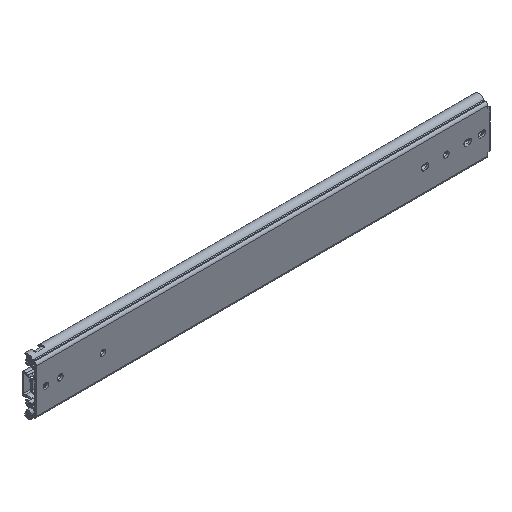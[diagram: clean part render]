
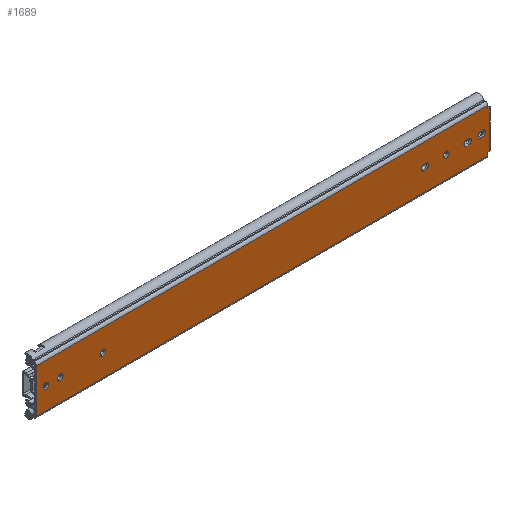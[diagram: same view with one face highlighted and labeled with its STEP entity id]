
A CAD part, isometric view. The second image highlights one B-rep face of the part: STEP entity #1689.
In plain terms, the highlighted planar face has unit normal (0, -1, 0).
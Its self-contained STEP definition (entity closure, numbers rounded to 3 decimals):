
#19=DIRECTION('',(0.,0.,-1.));
#20=VECTOR('',#19,58.586);
#21=CARTESIAN_POINT('',(0.,0.,29.293));
#22=LINE('',#21,#20);
#250=CARTESIAN_POINT('',(12.7,0.,0.));
#251=DIRECTION('',(0.,1.,0.));
#252=DIRECTION('',(1.,0.,0.));
#253=AXIS2_PLACEMENT_3D('',#250,#251,#252);
#255=CARTESIAN_POINT('',(12.7,0.,0.));
#256=DIRECTION('',(0.,1.,0.));
#257=DIRECTION('',(-1.,0.,0.));
#258=AXIS2_PLACEMENT_3D('',#255,#256,#257);
#260=CARTESIAN_POINT('',(88.9,0.,0.));
#261=DIRECTION('',(0.,1.,0.));
#262=DIRECTION('',(1.,0.,0.));
#263=AXIS2_PLACEMENT_3D('',#260,#261,#262);
#265=CARTESIAN_POINT('',(88.9,0.,0.));
#266=DIRECTION('',(0.,1.,0.));
#267=DIRECTION('',(-1.,0.,0.));
#268=AXIS2_PLACEMENT_3D('',#265,#266,#267);
#270=CARTESIAN_POINT('',(549.3,0.,0.));
#271=DIRECTION('',(0.,1.,0.));
#272=DIRECTION('',(1.,0.,0.));
#273=AXIS2_PLACEMENT_3D('',#270,#271,#272);
#275=CARTESIAN_POINT('',(549.3,0.,0.));
#276=DIRECTION('',(0.,1.,0.));
#277=DIRECTION('',(-1.,0.,0.));
#278=AXIS2_PLACEMENT_3D('',#275,#276,#277);
#280=CARTESIAN_POINT('',(519.45,0.,0.));
#281=DIRECTION('',(0.,1.,0.));
#282=DIRECTION('',(0.,0.,-1.));
#283=AXIS2_PLACEMENT_3D('',#280,#281,#282);
#285=DIRECTION('',(-1.,0.,0.));
#286=VECTOR('',#285,2.5);
#287=CARTESIAN_POINT('',(521.95,0.,-3.75));
#288=LINE('',#287,#286);
#289=CARTESIAN_POINT('',(521.95,0.,0.));
#290=DIRECTION('',(0.,1.,0.));
#291=DIRECTION('',(0.,0.,1.));
#292=AXIS2_PLACEMENT_3D('',#289,#290,#291);
#294=DIRECTION('',(1.,0.,0.));
#295=VECTOR('',#294,2.5);
#296=CARTESIAN_POINT('',(519.45,0.,3.75));
#297=LINE('',#296,#295);
#298=CARTESIAN_POINT('',(576.65,0.,0.));
#299=DIRECTION('',(0.,1.,0.));
#300=DIRECTION('',(0.,0.,-1.));
#301=AXIS2_PLACEMENT_3D('',#298,#299,#300);
#303=DIRECTION('',(-1.,0.,0.));
#304=VECTOR('',#303,2.5);
#305=CARTESIAN_POINT('',(579.15,0.,-3.75));
#306=LINE('',#305,#304);
#307=CARTESIAN_POINT('',(579.15,0.,0.));
#308=DIRECTION('',(0.,1.,0.));
#309=DIRECTION('',(0.,0.,1.));
#310=AXIS2_PLACEMENT_3D('',#307,#308,#309);
#312=DIRECTION('',(1.,0.,0.));
#313=VECTOR('',#312,2.5);
#314=CARTESIAN_POINT('',(576.65,0.,3.75));
#315=LINE('',#314,#313);
#316=CARTESIAN_POINT('',(595.65,0.,0.));
#317=DIRECTION('',(0.,1.,0.));
#318=DIRECTION('',(0.,0.,-1.));
#319=AXIS2_PLACEMENT_3D('',#316,#317,#318);
#321=DIRECTION('',(-1.,0.,0.));
#322=VECTOR('',#321,2.5);
#323=CARTESIAN_POINT('',(598.15,0.,-3.75));
#324=LINE('',#323,#322);
#325=CARTESIAN_POINT('',(598.15,0.,0.));
#326=DIRECTION('',(0.,1.,0.));
#327=DIRECTION('',(0.,0.,1.));
#328=AXIS2_PLACEMENT_3D('',#325,#326,#327);
#330=DIRECTION('',(1.,0.,0.));
#331=VECTOR('',#330,2.5);
#332=CARTESIAN_POINT('',(595.65,0.,3.75));
#333=LINE('',#332,#331);
#334=CARTESIAN_POINT('',(31.8,0.,0.));
#335=DIRECTION('',(0.,1.,0.));
#336=DIRECTION('',(1.,0.,0.));
#337=AXIS2_PLACEMENT_3D('',#334,#335,#336);
#339=CARTESIAN_POINT('',(31.8,0.,0.));
#340=DIRECTION('',(0.,1.,0.));
#341=DIRECTION('',(-1.,0.,0.));
#342=AXIS2_PLACEMENT_3D('',#339,#340,#341);
#344=DIRECTION('',(-1.,0.,0.));
#345=VECTOR('',#344,2.);
#346=CARTESIAN_POINT('',(606.6,0.,-25.5));
#347=LINE('',#346,#345);
#348=DIRECTION('',(-1.,0.,0.));
#349=VECTOR('',#348,604.6);
#350=CARTESIAN_POINT('',(604.6,0.,-29.293));
#351=LINE('',#350,#349);
#352=DIRECTION('',(-1.,0.,0.));
#353=VECTOR('',#352,604.6);
#354=CARTESIAN_POINT('',(604.6,0.,29.293));
#355=LINE('',#354,#353);
#356=DIRECTION('',(-1.,0.,0.));
#357=VECTOR('',#356,2.);
#358=CARTESIAN_POINT('',(606.6,0.,25.5));
#359=LINE('',#358,#357);
#448=DIRECTION('',(0.,0.,1.));
#449=VECTOR('',#448,51.);
#450=CARTESIAN_POINT('',(606.6,0.,-25.5));
#451=LINE('',#450,#449);
#558=DIRECTION('',(0.,0.,-1.));
#559=VECTOR('',#558,3.793);
#560=CARTESIAN_POINT('',(604.6,0.,29.293));
#561=LINE('',#560,#559);
#594=DIRECTION('',(0.,0.,-1.));
#595=VECTOR('',#594,3.793);
#596=CARTESIAN_POINT('',(604.6,0.,-25.5));
#597=LINE('',#596,#595);
#1104=CARTESIAN_POINT('',(0.,0.,29.293));
#1106=VERTEX_POINT('',#1104);
#1109=CARTESIAN_POINT('',(0.,0.,-29.293));
#1111=VERTEX_POINT('',#1109);
#1200=CARTESIAN_POINT('',(16.45,0.,0.));
#1201=CARTESIAN_POINT('',(8.95,0.,0.));
#1202=VERTEX_POINT('',#1200);
#1203=VERTEX_POINT('',#1201);
#1204=CARTESIAN_POINT('',(92.65,0.,0.));
#1205=CARTESIAN_POINT('',(85.15,0.,0.));
#1206=VERTEX_POINT('',#1204);
#1207=VERTEX_POINT('',#1205);
#1208=CARTESIAN_POINT('',(553.05,0.,0.));
#1209=CARTESIAN_POINT('',(545.55,0.,0.));
#1210=VERTEX_POINT('',#1208);
#1211=VERTEX_POINT('',#1209);
#1212=CARTESIAN_POINT('',(519.45,0.,-3.75));
#1213=CARTESIAN_POINT('',(519.45,0.,3.75));
#1214=VERTEX_POINT('',#1212);
#1215=VERTEX_POINT('',#1213);
#1216=CARTESIAN_POINT('',(521.95,0.,3.75));
#1217=VERTEX_POINT('',#1216);
#1218=CARTESIAN_POINT('',(521.95,0.,-3.75));
#1219=VERTEX_POINT('',#1218);
#1220=CARTESIAN_POINT('',(576.65,0.,-3.75));
#1221=CARTESIAN_POINT('',(576.65,0.,3.75));
#1222=VERTEX_POINT('',#1220);
#1223=VERTEX_POINT('',#1221);
#1224=CARTESIAN_POINT('',(579.15,0.,3.75));
#1225=VERTEX_POINT('',#1224);
#1226=CARTESIAN_POINT('',(579.15,0.,-3.75));
#1227=VERTEX_POINT('',#1226);
#1228=CARTESIAN_POINT('',(595.65,0.,-3.75));
#1229=CARTESIAN_POINT('',(595.65,0.,3.75));
#1230=VERTEX_POINT('',#1228);
#1231=VERTEX_POINT('',#1229);
#1232=CARTESIAN_POINT('',(598.15,0.,3.75));
#1233=VERTEX_POINT('',#1232);
#1234=CARTESIAN_POINT('',(598.15,0.,-3.75));
#1235=VERTEX_POINT('',#1234);
#1298=CARTESIAN_POINT('',(604.6,0.,29.293));
#1299=VERTEX_POINT('',#1298);
#1300=CARTESIAN_POINT('',(604.6,0.,-29.293));
#1301=VERTEX_POINT('',#1300);
#1304=CARTESIAN_POINT('',(606.6,0.,25.5));
#1305=CARTESIAN_POINT('',(604.6,0.,25.5));
#1306=VERTEX_POINT('',#1304);
#1307=VERTEX_POINT('',#1305);
#1308=CARTESIAN_POINT('',(606.6,0.,-25.5));
#1309=CARTESIAN_POINT('',(604.6,0.,-25.5));
#1310=VERTEX_POINT('',#1308);
#1311=VERTEX_POINT('',#1309);
#1376=CARTESIAN_POINT('',(35.55,0.,0.));
#1377=CARTESIAN_POINT('',(28.05,0.,0.));
#1378=VERTEX_POINT('',#1376);
#1379=VERTEX_POINT('',#1377);
#1614=CARTESIAN_POINT('',(0.,0.,32.5));
#1615=DIRECTION('',(0.,-1.,0.));
#1616=DIRECTION('',(0.,0.,-1.));
#1617=AXIS2_PLACEMENT_3D('',#1614,#1615,#1616);
#1618=PLANE('',#1617);
#1620=ORIENTED_EDGE('',*,*,#1619,.F.);
#1622=ORIENTED_EDGE('',*,*,#1621,.T.);
#1624=ORIENTED_EDGE('',*,*,#1623,.T.);
#1626=ORIENTED_EDGE('',*,*,#1625,.T.);
#1627=ORIENTED_EDGE('',*,*,#1399,.F.);
#1629=ORIENTED_EDGE('',*,*,#1628,.F.);
#1631=ORIENTED_EDGE('',*,*,#1630,.T.);
#1633=ORIENTED_EDGE('',*,*,#1632,.F.);
#1634=EDGE_LOOP('',(#1620,#1622,#1624,#1626,#1627,#1629,#1631,#1633));
#1635=FACE_OUTER_BOUND('',#1634,.F.);
#1637=ORIENTED_EDGE('',*,*,#1636,.F.);
#1639=ORIENTED_EDGE('',*,*,#1638,.F.);
#1640=EDGE_LOOP('',(#1637,#1639));
#1641=FACE_BOUND('',#1640,.F.);
#1643=ORIENTED_EDGE('',*,*,#1642,.F.);
#1645=ORIENTED_EDGE('',*,*,#1644,.F.);
#1646=EDGE_LOOP('',(#1643,#1645));
#1647=FACE_BOUND('',#1646,.F.);
#1649=ORIENTED_EDGE('',*,*,#1648,.F.);
#1651=ORIENTED_EDGE('',*,*,#1650,.F.);
#1653=ORIENTED_EDGE('',*,*,#1652,.F.);
#1655=ORIENTED_EDGE('',*,*,#1654,.F.);
#1656=EDGE_LOOP('',(#1649,#1651,#1653,#1655));
#1657=FACE_BOUND('',#1656,.F.);
#1659=ORIENTED_EDGE('',*,*,#1658,.F.);
#1661=ORIENTED_EDGE('',*,*,#1660,.F.);
#1663=ORIENTED_EDGE('',*,*,#1662,.F.);
#1665=ORIENTED_EDGE('',*,*,#1664,.F.);
#1666=EDGE_LOOP('',(#1659,#1661,#1663,#1665));
#1667=FACE_BOUND('',#1666,.F.);
#1669=ORIENTED_EDGE('',*,*,#1668,.F.);
#1671=ORIENTED_EDGE('',*,*,#1670,.F.);
#1673=ORIENTED_EDGE('',*,*,#1672,.F.);
#1675=ORIENTED_EDGE('',*,*,#1674,.F.);
#1676=EDGE_LOOP('',(#1669,#1671,#1673,#1675));
#1677=FACE_BOUND('',#1676,.F.);
#1679=ORIENTED_EDGE('',*,*,#1678,.F.);
#1681=ORIENTED_EDGE('',*,*,#1680,.F.);
#1682=EDGE_LOOP('',(#1679,#1681));
#1683=FACE_BOUND('',#1682,.F.);
#1684=ORIENTED_EDGE('',*,*,#1604,.F.);
#1686=ORIENTED_EDGE('',*,*,#1685,.F.);
#1687=EDGE_LOOP('',(#1684,#1686));
#1688=FACE_BOUND('',#1687,.F.);
#254=CIRCLE('',#253,3.75);
#259=CIRCLE('',#258,3.75);
#264=CIRCLE('',#263,3.75);
#269=CIRCLE('',#268,3.75);
#274=CIRCLE('',#273,3.75);
#279=CIRCLE('',#278,3.75);
#284=CIRCLE('',#283,3.75);
#293=CIRCLE('',#292,3.75);
#302=CIRCLE('',#301,3.75);
#311=CIRCLE('',#310,3.75);
#320=CIRCLE('',#319,3.75);
#329=CIRCLE('',#328,3.75);
#338=CIRCLE('',#337,3.75);
#343=CIRCLE('',#342,3.75);
#1399=EDGE_CURVE('',#1106,#1111,#22,.T.);
#1604=EDGE_CURVE('',#1202,#1203,#254,.T.);
#1619=EDGE_CURVE('',#1310,#1306,#451,.T.);
#1621=EDGE_CURVE('',#1310,#1311,#347,.T.);
#1623=EDGE_CURVE('',#1311,#1301,#597,.T.);
#1625=EDGE_CURVE('',#1301,#1111,#351,.T.);
#1628=EDGE_CURVE('',#1299,#1106,#355,.T.);
#1630=EDGE_CURVE('',#1299,#1307,#561,.T.);
#1632=EDGE_CURVE('',#1306,#1307,#359,.T.);
#1636=EDGE_CURVE('',#1206,#1207,#264,.T.);
#1638=EDGE_CURVE('',#1207,#1206,#269,.T.);
#1642=EDGE_CURVE('',#1210,#1211,#274,.T.);
#1644=EDGE_CURVE('',#1211,#1210,#279,.T.);
#1648=EDGE_CURVE('',#1214,#1215,#284,.T.);
#1650=EDGE_CURVE('',#1219,#1214,#288,.T.);
#1652=EDGE_CURVE('',#1217,#1219,#293,.T.);
#1654=EDGE_CURVE('',#1215,#1217,#297,.T.);
#1658=EDGE_CURVE('',#1222,#1223,#302,.T.);
#1660=EDGE_CURVE('',#1227,#1222,#306,.T.);
#1662=EDGE_CURVE('',#1225,#1227,#311,.T.);
#1664=EDGE_CURVE('',#1223,#1225,#315,.T.);
#1668=EDGE_CURVE('',#1230,#1231,#320,.T.);
#1670=EDGE_CURVE('',#1235,#1230,#324,.T.);
#1672=EDGE_CURVE('',#1233,#1235,#329,.T.);
#1674=EDGE_CURVE('',#1231,#1233,#333,.T.);
#1678=EDGE_CURVE('',#1378,#1379,#338,.T.);
#1680=EDGE_CURVE('',#1379,#1378,#343,.T.);
#1685=EDGE_CURVE('',#1203,#1202,#259,.T.);
#1689=ADVANCED_FACE('',(#1635,#1641,#1647,#1657,#1667,#1677,#1683,#1688),#1618,
.T.);
